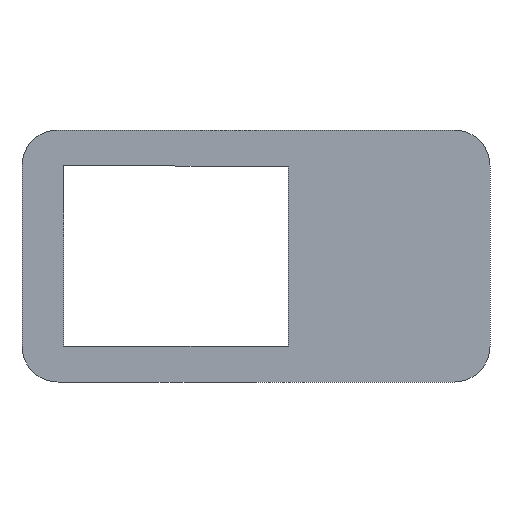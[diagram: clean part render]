
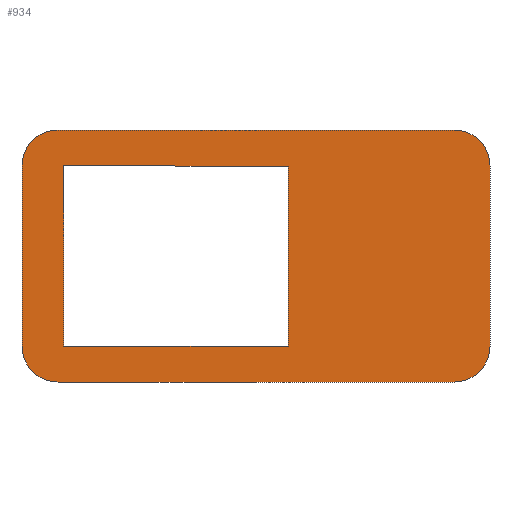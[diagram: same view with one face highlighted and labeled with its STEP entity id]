
A CAD part, front view. The second image highlights one B-rep face of the part: STEP entity #934.
In plain terms, the highlighted planar face has unit normal (0, -1, 0).
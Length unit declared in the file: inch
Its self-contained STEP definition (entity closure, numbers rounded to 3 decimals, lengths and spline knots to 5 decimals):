
#2 = DIRECTION ( 'NONE',  ( 0., 0., -1. ) ) ;
#27 = VERTEX_POINT ( 'NONE', #832 ) ;
#41 = LINE ( 'NONE', #1022, #994 ) ;
#46 = CARTESIAN_POINT ( 'NONE',  ( 0., 0., 0. ) ) ;
#48 = EDGE_CURVE ( 'NONE', #759, #122, #879, .T. ) ;
#65 = LINE ( 'NONE', #833, #801 ) ;
#72 = CARTESIAN_POINT ( 'NONE',  ( -3.25, 0., -1.75 ) ) ;
#97 = DIRECTION ( 'NONE',  ( 0., 0., 1. ) ) ;
#103 = VECTOR ( 'NONE', #399, 39.37008 ) ;
#104 = CIRCLE ( 'NONE', #715, 0.5 ) ;
#117 = CARTESIAN_POINT ( 'NONE',  ( 0.44941, 0., 0. ) ) ;
#122 = VERTEX_POINT ( 'NONE', #476 ) ;
#147 = VERTEX_POINT ( 'NONE', #788 ) ;
#177 = ORIENTED_EDGE ( 'NONE', *, *, #343, .T. ) ;
#180 = EDGE_CURVE ( 'NONE', #756, #759, #1011, .T. ) ;
#190 = EDGE_LOOP ( 'NONE', ( #581, #627, #794, #379, #540, #871, #612, #177 ) ) ;
#202 = VECTOR ( 'NONE', #980, 39.37008 ) ;
#210 = DIRECTION ( 'NONE',  ( 1., 0., 0. ) ) ;
#213 = ORIENTED_EDGE ( 'NONE', *, *, #180, .F. ) ;
#216 = CARTESIAN_POINT ( 'NONE',  ( -2.75, 0., 1.25 ) ) ;
#247 = CARTESIAN_POINT ( 'NONE',  ( 0., 0., 1.25 ) ) ;
#251 = VERTEX_POINT ( 'NONE', #280 ) ;
#276 = CARTESIAN_POINT ( 'NONE',  ( -2.75, 0., -1.25 ) ) ;
#280 = CARTESIAN_POINT ( 'NONE',  ( -3.25, 0., 1.25 ) ) ;
#287 = FACE_BOUND ( 'NONE', #416, .T. ) ;
#288 = VERTEX_POINT ( 'NONE', #373 ) ;
#291 = CARTESIAN_POINT ( 'NONE',  ( -2.75, 0., -1.75 ) ) ;
#330 = LINE ( 'NONE', #72, #103 ) ;
#331 = CARTESIAN_POINT ( 'NONE',  ( 0.44941, 0., -1.25 ) ) ;
#338 = CARTESIAN_POINT ( 'NONE',  ( -3.25, 0., 1.75 ) ) ;
#343 = EDGE_CURVE ( 'NONE', #805, #251, #956, .T. ) ;
#362 = LINE ( 'NONE', #338, #849 ) ;
#365 = PLANE ( 'NONE',  #580 ) ;
#371 = DIRECTION ( 'NONE',  ( 0., 0., -1. ) ) ;
#373 = CARTESIAN_POINT ( 'NONE',  ( 2.75, 0., 1.75 ) ) ;
#376 = DIRECTION ( 'NONE',  ( 0., -1., 0. ) ) ;
#379 = ORIENTED_EDGE ( 'NONE', *, *, #461, .T. ) ;
#399 = DIRECTION ( 'NONE',  ( -1., 0., 0. ) ) ;
#416 = EDGE_LOOP ( 'NONE', ( #213, #856, #588, #791 ) ) ;
#440 = EDGE_CURVE ( 'NONE', #937, #901, #330, .T. ) ;
#460 = CARTESIAN_POINT ( 'NONE',  ( 2.75, 0., -1.75 ) ) ;
#461 = EDGE_CURVE ( 'NONE', #937, #147, #992, .T. ) ;
#476 = CARTESIAN_POINT ( 'NONE',  ( -2.67309, 0., 1.25 ) ) ;
#523 = AXIS2_PLACEMENT_3D ( 'NONE', #667, #732, #998 ) ;
#531 = EDGE_CURVE ( 'NONE', #122, #27, #897, .T. ) ;
#540 = ORIENTED_EDGE ( 'NONE', *, *, #899, .F. ) ;
#541 = LINE ( 'NONE', #707, #960 ) ;
#547 = CARTESIAN_POINT ( 'NONE',  ( -3.25, 0., -1.25 ) ) ;
#580 = AXIS2_PLACEMENT_3D ( 'NONE', #46, #618, #951 ) ;
#581 = ORIENTED_EDGE ( 'NONE', *, *, #876, .F. ) ;
#588 = ORIENTED_EDGE ( 'NONE', *, *, #531, .F. ) ;
#608 = DIRECTION ( 'NONE',  ( 0., 0., -1. ) ) ;
#612 = ORIENTED_EDGE ( 'NONE', *, *, #642, .F. ) ;
#618 = DIRECTION ( 'NONE',  ( 0., -1., 0. ) ) ;
#627 = ORIENTED_EDGE ( 'NONE', *, *, #979, .T. ) ;
#642 = EDGE_CURVE ( 'NONE', #805, #288, #65, .T. ) ;
#658 = CARTESIAN_POINT ( 'NONE',  ( -2.75, 0., 1.75 ) ) ;
#667 = CARTESIAN_POINT ( 'NONE',  ( 2.75, 0., -1.25 ) ) ;
#693 = VECTOR ( 'NONE', #2, 39.37008 ) ;
#707 = CARTESIAN_POINT ( 'NONE',  ( 0., 0., -1.25 ) ) ;
#715 = AXIS2_PLACEMENT_3D ( 'NONE', #943, #774, #371 ) ;
#716 = CIRCLE ( 'NONE', #769, 0.5 ) ;
#731 = AXIS2_PLACEMENT_3D ( 'NONE', #216, #1051, #1038 ) ;
#732 = DIRECTION ( 'NONE',  ( 0., -1., 0. ) ) ;
#738 = CARTESIAN_POINT ( 'NONE',  ( 3.25, 0., 1.25 ) ) ;
#747 = CARTESIAN_POINT ( 'NONE',  ( -2.67309, 0., 0. ) ) ;
#756 = VERTEX_POINT ( 'NONE', #331 ) ;
#759 = VERTEX_POINT ( 'NONE', #907 ) ;
#769 = AXIS2_PLACEMENT_3D ( 'NONE', #276, #376, #1031 ) ;
#774 = DIRECTION ( 'NONE',  ( 0., -1., 0. ) ) ;
#778 = FACE_OUTER_BOUND ( 'NONE', #190, .T. ) ;
#788 = CARTESIAN_POINT ( 'NONE',  ( 3.25, 0., -1.25 ) ) ;
#791 = ORIENTED_EDGE ( 'NONE', *, *, #48, .F. ) ;
#794 = ORIENTED_EDGE ( 'NONE', *, *, #440, .F. ) ;
#801 = VECTOR ( 'NONE', #1045, 39.37008 ) ;
#805 = VERTEX_POINT ( 'NONE', #658 ) ;
#818 = VECTOR ( 'NONE', #842, 39.37008 ) ;
#832 = CARTESIAN_POINT ( 'NONE',  ( -2.67309, 0., -1.25 ) ) ;
#833 = CARTESIAN_POINT ( 'NONE',  ( -3.25, 0., 1.75 ) ) ;
#842 = DIRECTION ( 'NONE',  ( 0., 0., 1. ) ) ;
#849 = VECTOR ( 'NONE', #97, 39.37008 ) ;
#856 = ORIENTED_EDGE ( 'NONE', *, *, #996, .F. ) ;
#871 = ORIENTED_EDGE ( 'NONE', *, *, #914, .T. ) ;
#876 = EDGE_CURVE ( 'NONE', #997, #251, #362, .T. ) ;
#879 = LINE ( 'NONE', #247, #202 ) ;
#897 = LINE ( 'NONE', #747, #693 ) ;
#899 = EDGE_CURVE ( 'NONE', #1050, #147, #41, .T. ) ;
#901 = VERTEX_POINT ( 'NONE', #291 ) ;
#907 = CARTESIAN_POINT ( 'NONE',  ( 0.44941, 0., 1.25 ) ) ;
#914 = EDGE_CURVE ( 'NONE', #1050, #288, #104, .T. ) ;
#934 = ADVANCED_FACE ( 'NONE', ( #287, #778 ), #365, .T. ) ;
#937 = VERTEX_POINT ( 'NONE', #460 ) ;
#943 = CARTESIAN_POINT ( 'NONE',  ( 2.75, 0., 1.25 ) ) ;
#951 = DIRECTION ( 'NONE',  ( 0., 0., -1. ) ) ;
#956 = CIRCLE ( 'NONE', #731, 0.5 ) ;
#960 = VECTOR ( 'NONE', #210, 39.37008 ) ;
#979 = EDGE_CURVE ( 'NONE', #997, #901, #716, .T. ) ;
#980 = DIRECTION ( 'NONE',  ( -1., 0., 0. ) ) ;
#992 = CIRCLE ( 'NONE', #523, 0.5 ) ;
#994 = VECTOR ( 'NONE', #608, 39.37008 ) ;
#996 = EDGE_CURVE ( 'NONE', #27, #756, #541, .T. ) ;
#997 = VERTEX_POINT ( 'NONE', #547 ) ;
#998 = DIRECTION ( 'NONE',  ( 0., 0., -1. ) ) ;
#1011 = LINE ( 'NONE', #117, #818 ) ;
#1022 = CARTESIAN_POINT ( 'NONE',  ( 3.25, 0., 1.75 ) ) ;
#1031 = DIRECTION ( 'NONE',  ( 0., 0., -1. ) ) ;
#1038 = DIRECTION ( 'NONE',  ( 0., 0., -1. ) ) ;
#1045 = DIRECTION ( 'NONE',  ( 1., 0., 0. ) ) ;
#1050 = VERTEX_POINT ( 'NONE', #738 ) ;
#1051 = DIRECTION ( 'NONE',  ( 0., -1., 0. ) ) ;
